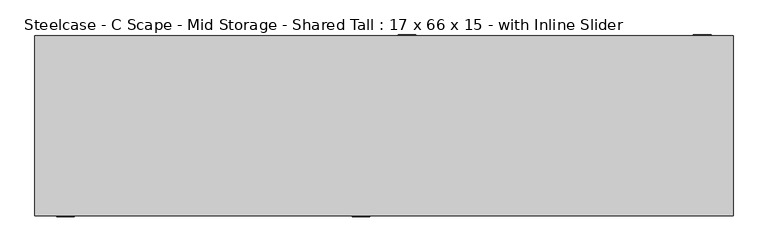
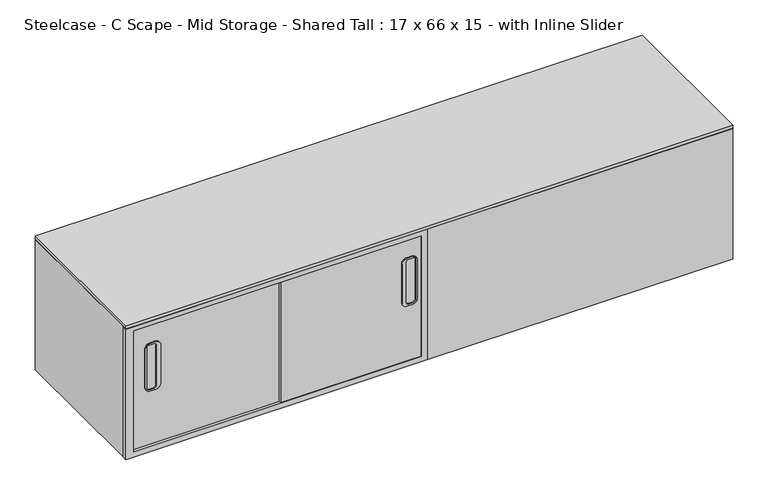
"""IFC4 building model written with IfcOpenShell, lengths in millimetres: furniture geometry, Steelcase - C Scape - Mid Storage - Shared Tall : 17 x 66 x 15 - with Inline Slider."""

from ifc_helpers import new_model, si_unit, point, frame, frame_2d, origin, place, context, project, spatial, polyline, circle_curve, trimmed, segment, composite_curve, outline, extrude, faceted_brep, source, transform, mapped, element, save


def steelcase_c_scape_mid_storage_shared_tall_17_x_66_x_15_with_783dcb10(model_context):
    return source(origin(), model_context, "Body", "SolidModel", [
        faceted_brep([(841.375, 215.9, 1219.279375), (0.0, 215.9, 1219.279375), (0.0, -201.2949309, 1219.279375), (21.9711633, -201.2949309, 1219.279375), (21.9711633, 206.3755809, 1219.279375), (835.025, 206.3755809, 1219.279375), (835.025, -215.9, 1219.279375), (1676.4, -215.9, 1219.279375), (1676.4, 206.3755809, 1219.279375), (1654.302, 206.3755809, 1219.279375), (1654.302, -201.2949309, 1219.279375), (841.375, -201.2949309, 1219.279375), (1676.4, 206.3755809, 838.2), (1676.4, -215.9, 838.2), (835.025, -215.9, 838.2), (835.025, -201.2949309, 838.2), (0.0, -201.2949309, 838.2), (0.0, 215.9, 838.2), (841.375, 215.9, 838.2), (841.375, 206.3755809, 838.2), (835.025, -201.2949309, 853.4399855), (21.9711633, -201.2949309, 853.4399855), (21.9711633, 206.3755809, 853.4399855), (835.025, 206.3755809, 853.4399855), (841.375, 206.3755809, 853.4399855), (1654.302, 206.3755809, 853.4399855), (1654.302, -201.2949309, 853.4399855), (841.375, -201.2949309, 853.4399855)], [[[0, 1, 2, 3, 4, 5, 6, 7, 8, 9, 10, 11]], [[12, 13, 14, 15, 16, 17, 18, 19]], [[1, 0, 18, 17]], [[2, 1, 17, 16]], [[3, 2, 16, 15, 20, 21]], [[4, 3, 21, 22]], [[5, 4, 22, 23]], [[6, 5, 23, 20, 15, 14]], [[7, 6, 14, 13]], [[8, 7, 13, 12]], [[9, 8, 12, 19, 24, 25]], [[10, 9, 25, 26]], [[11, 10, 26, 27]], [[0, 11, 27, 24, 19, 18]], [[21, 20, 23, 22]], [[25, 24, 27, 26]]]),
        extrude(outline(polyline([(1219.279375, 1676.4), (1219.279375, 841.375), (838.2, 841.375), (838.2, 1676.4), (1219.279375, 1676.4)]), holes=[polyline([(1205.8427824, 1654.302), (853.4399855, 1654.302), (853.4399855, 860.298), (1205.8427824, 860.298), (1205.8427824, 1654.302)])]), frame((0.0, 206.3755809, 0.0), z_axis=(0.0, 1.0, 0.0), x_axis=(0.0, 0.0, 1.0)), (0.0, 0.0, 1.0), 9.5244191),
        extrude(outline(polyline([(1219.279375, 835.025), (1219.279375, 0.0), (838.2, 0.0), (838.2, 835.025), (1219.279375, 835.025)]), holes=[polyline([(1205.8427824, 816.102), (853.4399855, 816.102), (853.4399855, 21.9711633), (1205.8427824, 21.9711633), (1205.8427824, 816.102)])]), frame((0.0, -215.9, 0.0), z_axis=(0.0, 1.0, 0.0), x_axis=(0.0, 0.0, 1.0)), (0.0, 0.0, 1.0), 14.6050691),
        extrude(outline(polyline([(1676.4, -215.9), (0.0, -215.9), (0.0, 215.9), (1676.4, 215.9), (1676.4, -215.9)])), frame((0.0, 0.0, 1219.279375), z_axis=(0.0, 0.0, 1.0), x_axis=(1.0, 0.0, 0.0)), (0.0, 0.0, 1.0), 10.080625),
        extrude(outline(composite_curve([segment(trimmed(circle_curve(frame_2d((1142.6476077, 1609.8179733)), 13.716), [point((1142.6476077, 1623.5339733))], [point((1156.3636077, 1609.8179733))], False, "CARTESIAN"), True, "CONTINUOUS"), segment(polyline([(1156.3636077, 1609.8179733), (1156.3636077, 1594.8703473)]), True, "CONTINUOUS"), segment(trimmed(circle_curve(frame_2d((1142.7362332, 1594.8703473)), 13.6273746), [point((1156.3636077, 1594.8703473))], [point((1142.7362332, 1581.2429727))], False, "CARTESIAN"), True, "CONTINUOUS"), segment(polyline([(1142.7362332, 1581.2429727), (1030.3795593, 1581.2429727)]), True, "CONTINUOUS"), segment(trimmed(circle_curve(frame_2d((1030.3795593, 1594.9589727)), 13.716), [point((1030.3795593, 1581.2429727))], [point((1016.6635593, 1594.9589727))], False, "CARTESIAN"), True, "CONTINUOUS"), segment(polyline([(1016.6635593, 1594.9589727), (1016.6635593, 1609.8179733)]), True, "CONTINUOUS"), segment(trimmed(circle_curve(frame_2d((1030.3795593, 1609.8179733)), 13.716), [point((1016.6635593, 1609.8179733))], [point((1030.3795593, 1623.5339733))], False, "CARTESIAN"), True, "CONTINUOUS"), segment(polyline([(1030.3795593, 1623.5339733), (1142.6476077, 1623.5339733)]), True, "CONTINUOUS")], self_intersect=False), holes=[composite_curve([segment(trimmed(circle_curve(frame_2d((1027.8395729, 1612.3579733)), 6.35), [point((1027.8395729, 1618.7079733))], [point((1021.4895729, 1612.3579733))], True, "CARTESIAN"), True, "CONTINUOUS"), segment(polyline([(1021.4895729, 1612.3579733), (1021.4895729, 1599.6579794)]), True, "CONTINUOUS"), segment(trimmed(circle_curve(frame_2d((1027.8395729, 1599.6579794)), 6.35), [point((1021.4895729, 1599.6579794))], [point((1027.8395729, 1593.3079794))], True, "CARTESIAN"), True, "CONTINUOUS"), segment(polyline([(1027.8395729, 1593.3079794), (1145.1875942, 1593.3079794)]), True, "CONTINUOUS"), segment(trimmed(circle_curve(frame_2d((1145.1875942, 1599.6579794)), 6.35), [point((1145.1875942, 1593.3079794))], [point((1151.5375942, 1599.6579794))], True, "CARTESIAN"), True, "CONTINUOUS"), segment(polyline([(1151.5375942, 1599.6579794), (1151.5375942, 1612.3579733)]), True, "CONTINUOUS"), segment(trimmed(circle_curve(frame_2d((1145.1875942, 1612.3579733)), 6.35), [point((1151.5375942, 1612.3579733))], [point((1145.1875942, 1618.7079733))], True, "CARTESIAN"), True, "CONTINUOUS"), segment(polyline([(1145.1875942, 1618.7079733), (1027.8395729, 1618.7079733)]), True, "CONTINUOUS")], self_intersect=False)]), frame((0.0, 215.9, 0.0), z_axis=(0.0, 1.0, 0.0), x_axis=(0.0, 0.0, 1.0)), (0.0, 0.0, 1.0), 2.54),
        extrude(outline(composite_curve([segment(polyline([(1142.6476077, 872.1430267), (1030.3795593, 872.1430267)]), True, "CONTINUOUS"), segment(trimmed(circle_curve(frame_2d((1030.3795593, 885.8590267)), 13.716), [point((1030.3795593, 872.1430267))], [point((1016.6635593, 885.8590267))], False, "CARTESIAN"), True, "CONTINUOUS"), segment(polyline([(1016.6635593, 885.8590267), (1016.6635593, 900.7180273)]), True, "CONTINUOUS"), segment(trimmed(circle_curve(frame_2d((1030.3795593, 900.7180273)), 13.716), [point((1016.6635593, 900.7180273))], [point((1030.3795593, 914.4340273))], False, "CARTESIAN"), True, "CONTINUOUS"), segment(polyline([(1030.3795593, 914.4340273), (1142.7362332, 914.4340273)]), True, "CONTINUOUS"), segment(trimmed(circle_curve(frame_2d((1142.7362332, 900.8066527)), 13.6273746), [point((1142.7362332, 914.4340273))], [point((1156.3636077, 900.8066527))], False, "CARTESIAN"), True, "CONTINUOUS"), segment(polyline([(1156.3636077, 900.8066527), (1156.3636077, 885.8590267)]), True, "CONTINUOUS"), segment(trimmed(circle_curve(frame_2d((1142.6476077, 885.8590267)), 13.716), [point((1156.3636077, 885.8590267))], [point((1142.6476077, 872.1430267))], False, "CARTESIAN"), True, "CONTINUOUS")], self_intersect=False), holes=[composite_curve([segment(polyline([(1027.8395729, 876.9690267), (1145.1875942, 876.9690267)]), True, "CONTINUOUS"), segment(trimmed(circle_curve(frame_2d((1145.1875942, 883.3190267)), 6.35), [point((1145.1875942, 876.9690267))], [point((1151.5375942, 883.3190267))], True, "CARTESIAN"), True, "CONTINUOUS"), segment(polyline([(1151.5375942, 883.3190267), (1151.5375942, 896.0190206)]), True, "CONTINUOUS"), segment(trimmed(circle_curve(frame_2d((1145.1875942, 896.0190206)), 6.35), [point((1151.5375942, 896.0190206))], [point((1145.1875942, 902.3690206))], True, "CARTESIAN"), True, "CONTINUOUS"), segment(polyline([(1145.1875942, 902.3690206), (1027.8395729, 902.3690206)]), True, "CONTINUOUS"), segment(trimmed(circle_curve(frame_2d((1027.8395729, 896.0190206)), 6.35), [point((1027.8395729, 902.3690206))], [point((1021.4895729, 896.0190206))], True, "CARTESIAN"), True, "CONTINUOUS"), segment(polyline([(1021.4895729, 896.0190206), (1021.4895729, 883.3190267)]), True, "CONTINUOUS"), segment(trimmed(circle_curve(frame_2d((1027.8395729, 883.3190267)), 6.35), [point((1021.4895729, 883.3190267))], [point((1027.8395729, 876.9690267))], True, "CARTESIAN"), True, "CONTINUOUS")], self_intersect=False)]), frame((0.0, 215.9, 0.0), z_axis=(0.0, 1.0, 0.0), x_axis=(0.0, 0.0, 1.0)), (0.0, 0.0, 1.0), 2.54),
        extrude(outline(composite_curve([segment(trimmed(circle_curve(frame_2d((1142.6476077, 790.5409733)), 13.716), [point((1142.6476077, 804.2569733))], [point((1156.3636077, 790.5409733))], False, "CARTESIAN"), True, "CONTINUOUS"), segment(polyline([(1156.3636077, 790.5409733), (1156.3636077, 775.5933473)]), True, "CONTINUOUS"), segment(trimmed(circle_curve(frame_2d((1142.7362332, 775.5933473)), 13.6273746), [point((1156.3636077, 775.5933473))], [point((1142.7362332, 761.9659727))], False, "CARTESIAN"), True, "CONTINUOUS"), segment(polyline([(1142.7362332, 761.9659727), (1030.3795593, 761.9659727)]), True, "CONTINUOUS"), segment(trimmed(circle_curve(frame_2d((1030.3795593, 775.6819727)), 13.716), [point((1030.3795593, 761.9659727))], [point((1016.6635593, 775.6819727))], False, "CARTESIAN"), True, "CONTINUOUS"), segment(polyline([(1016.6635593, 775.6819727), (1016.6635593, 790.5409733)]), True, "CONTINUOUS"), segment(trimmed(circle_curve(frame_2d((1030.3795593, 790.5409733)), 13.716), [point((1016.6635593, 790.5409733))], [point((1030.3795593, 804.2569733))], False, "CARTESIAN"), True, "CONTINUOUS"), segment(polyline([(1030.3795593, 804.2569733), (1142.6476077, 804.2569733)]), True, "CONTINUOUS")], self_intersect=False), holes=[composite_curve([segment(trimmed(circle_curve(frame_2d((1027.8395729, 793.0809733)), 6.35), [point((1027.8395729, 799.4309733))], [point((1021.4895729, 793.0809733))], True, "CARTESIAN"), True, "CONTINUOUS"), segment(polyline([(1021.4895729, 793.0809733), (1021.4895729, 780.3809794)]), True, "CONTINUOUS"), segment(trimmed(circle_curve(frame_2d((1027.8395729, 780.3809794)), 6.35), [point((1021.4895729, 780.3809794))], [point((1027.8395729, 774.0309794))], True, "CARTESIAN"), True, "CONTINUOUS"), segment(polyline([(1027.8395729, 774.0309794), (1145.1875942, 774.0309794)]), True, "CONTINUOUS"), segment(trimmed(circle_curve(frame_2d((1145.1875942, 780.3809794)), 6.35), [point((1145.1875942, 774.0309794))], [point((1151.5375942, 780.3809794))], True, "CARTESIAN"), True, "CONTINUOUS"), segment(polyline([(1151.5375942, 780.3809794), (1151.5375942, 793.0809733)]), True, "CONTINUOUS"), segment(trimmed(circle_curve(frame_2d((1145.1875942, 793.0809733)), 6.35), [point((1151.5375942, 793.0809733))], [point((1145.1875942, 799.4309733))], True, "CARTESIAN"), True, "CONTINUOUS"), segment(polyline([(1145.1875942, 799.4309733), (1027.8395729, 799.4309733)]), True, "CONTINUOUS")], self_intersect=False)]), frame((0.0, -218.44, 0.0), z_axis=(0.0, 1.0, 0.0), x_axis=(0.0, 0.0, 1.0)), (0.0, 0.0, 1.0), 2.54),
        extrude(outline(composite_curve([segment(polyline([(1142.6476077, 52.73919), (1030.3795593, 52.73919)]), True, "CONTINUOUS"), segment(trimmed(circle_curve(frame_2d((1030.3795593, 66.45519)), 13.716), [point((1030.3795593, 52.73919))], [point((1016.6635593, 66.45519))], False, "CARTESIAN"), True, "CONTINUOUS"), segment(polyline([(1016.6635593, 66.45519), (1016.6635593, 81.3141906)]), True, "CONTINUOUS"), segment(trimmed(circle_curve(frame_2d((1030.3795593, 81.3141906)), 13.716), [point((1016.6635593, 81.3141906))], [point((1030.3795593, 95.0301906))], False, "CARTESIAN"), True, "CONTINUOUS"), segment(polyline([(1030.3795593, 95.0301906), (1142.7362332, 95.0301906)]), True, "CONTINUOUS"), segment(trimmed(circle_curve(frame_2d((1142.7362332, 81.402816)), 13.6273746), [point((1142.7362332, 95.0301906))], [point((1156.3636077, 81.402816))], False, "CARTESIAN"), True, "CONTINUOUS"), segment(polyline([(1156.3636077, 81.402816), (1156.3636077, 66.45519)]), True, "CONTINUOUS"), segment(trimmed(circle_curve(frame_2d((1142.6476077, 66.45519)), 13.716), [point((1156.3636077, 66.45519))], [point((1142.6476077, 52.73919))], False, "CARTESIAN"), True, "CONTINUOUS")], self_intersect=False), holes=[composite_curve([segment(polyline([(1027.8395729, 57.56519), (1145.1875942, 57.56519)]), True, "CONTINUOUS"), segment(trimmed(circle_curve(frame_2d((1145.1875942, 63.91519)), 6.35), [point((1145.1875942, 57.56519))], [point((1151.5375942, 63.91519))], True, "CARTESIAN"), True, "CONTINUOUS"), segment(polyline([(1151.5375942, 63.91519), (1151.5375942, 76.6151839)]), True, "CONTINUOUS"), segment(trimmed(circle_curve(frame_2d((1145.1875942, 76.6151839)), 6.35), [point((1151.5375942, 76.6151839))], [point((1145.1875942, 82.9651839))], True, "CARTESIAN"), True, "CONTINUOUS"), segment(polyline([(1145.1875942, 82.9651839), (1027.8395729, 82.9651839)]), True, "CONTINUOUS"), segment(trimmed(circle_curve(frame_2d((1027.8395729, 76.6151839)), 6.35), [point((1027.8395729, 82.9651839))], [point((1021.4895729, 76.6151839))], True, "CARTESIAN"), True, "CONTINUOUS"), segment(polyline([(1021.4895729, 76.6151839), (1021.4895729, 63.91519)]), True, "CONTINUOUS"), segment(trimmed(circle_curve(frame_2d((1027.8395729, 63.91519)), 6.35), [point((1021.4895729, 63.91519))], [point((1027.8395729, 57.56519))], True, "CARTESIAN"), True, "CONTINUOUS")], self_intersect=False)]), frame((0.0, -218.44, 0.0), z_axis=(0.0, 1.0, 0.0), x_axis=(0.0, 0.0, 1.0)), (0.0, 0.0, 1.0), 2.54),
        extrude(outline(polyline([(1247.8385, 206.3755809), (841.375, 206.3755809), (841.375, 211.1377905), (1247.8385, 211.1377905), (1247.8385, 206.3755809)])), frame((0.0, 0.0, 853.4399855), z_axis=(0.0, 0.0, 1.0), x_axis=(1.0, 0.0, 0.0)), (0.0, 0.0, 1.0), 365.8393895),
        extrude(outline(polyline([(1654.302, 211.1377905), (1247.8385, 211.1377905), (1247.8385, 214.5444948), (1654.302, 214.5444948), (1654.302, 211.1377905)])), frame((0.0, 0.0, 853.4399855), z_axis=(0.0, 0.0, 1.0), x_axis=(1.0, 0.0, 0.0)), (0.0, 0.0, 1.0), 365.8393895),
        extrude(outline(polyline([(835.025, -214.5444948), (428.4980817, -214.5444948), (428.4980817, -208.5974655), (835.025, -208.5974655), (835.025, -214.5444948)])), frame((0.0, 0.0, 853.4399855), z_axis=(0.0, 0.0, 1.0), x_axis=(1.0, 0.0, 0.0)), (0.0, 0.0, 1.0), 365.8393895),
        extrude(outline(polyline([(428.4980817, -208.5974655), (21.9711633, -208.5974655), (21.9711633, -201.2949309), (428.4980817, -201.2949309), (428.4980817, -208.5974655)])), frame((0.0, 0.0, 853.4399855), z_axis=(0.0, 0.0, 1.0), x_axis=(1.0, 0.0, 0.0)), (0.0, 0.0, 1.0), 365.8393895),
    ])


if __name__ == "__main__":
    model = new_model("IFC4")
    model_context = context("Model", 3, world=origin())
    ifc_project = project(units=[si_unit("LENGTHUNIT", "METRE", prefix="MILLI")], contexts=[model_context])
    site = spatial("IfcSite", under=ifc_project)
    building = spatial("IfcBuilding", under=site)
    placement = place(None, origin())
    steelcase_c_scape_mid_storage_shared_tall_17_x_66_x_15_with_shape = steelcase_c_scape_mid_storage_shared_tall_17_x_66_x_15_with_783dcb10(model_context)
    element("IfcFurniture", 1, ObjectType="Steelcase - C Scape - Mid Storage - Shared Tall : 17 x 66 x 15 - with Inline Slider", at=placement, inside=building, context=model_context, shape_type="MappedRepresentation", body=[
        mapped(steelcase_c_scape_mid_storage_shared_tall_17_x_66_x_15_with_shape, transform((0.0, 0.0, 0.0), x_axis=(1.0, 0.0, 0.0), y_axis=(0.0, 1.0, 0.0), z_axis=(0.0, 0.0, 1.0))),
    ])
    save(model, "model.ifc")
